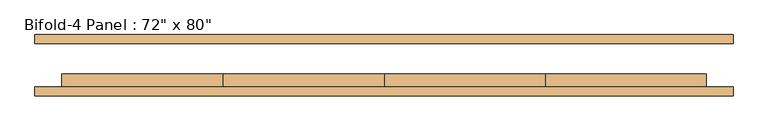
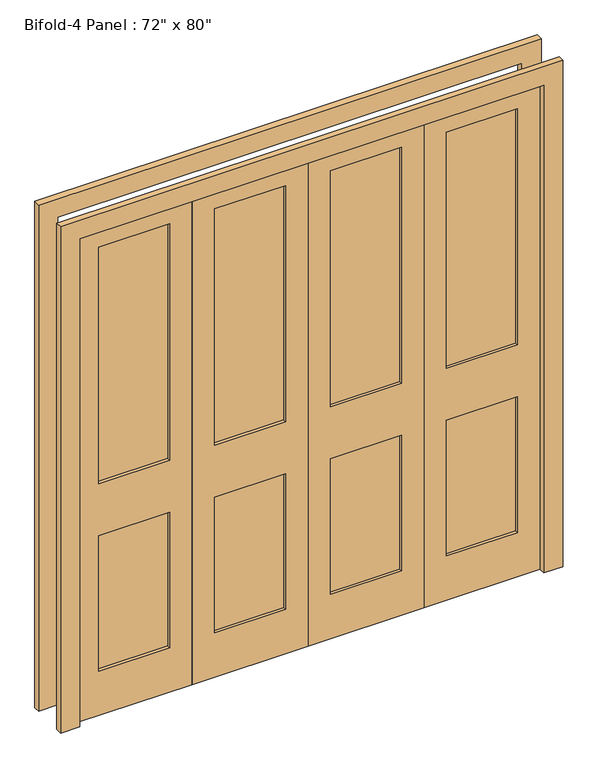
"""IFC4 building model written with IfcOpenShell, lengths in millimetres: door geometry."""

from ifc_helpers import new_model, si_unit, frame, origin, place, context, project, spatial, polyline, outline, extrude, source, transform, mapped, element, save


def door_beec499a(model_context):
    return source(origin(), model_context, "Body", "SweptSolid", [
        extrude(outline(polyline([(546.1, -49.2125), (546.1, -36.5125), (825.5, -36.5125), (825.5, -49.2125), (546.1, -49.2125)])), frame((0.0, 0.0, 965.2), z_axis=(0.0, 0.0, 1.0), x_axis=(1.0, 0.0, 0.0)), (0.0, 0.0, 1.0), 984.25),
        extrude(outline(polyline([(546.1, -49.2125), (546.1, -36.5125), (825.5, -36.5125), (825.5, -49.2125), (546.1, -49.2125)])), frame((0.0, 0.0, 184.15), z_axis=(0.0, 0.0, 1.0), x_axis=(1.0, 0.0, 0.0)), (0.0, 0.0, 1.0), 565.15),
        extrude(outline(polyline([(88.9, -49.2125), (88.9, -36.5125), (368.3, -36.5125), (368.3, -49.2125), (88.9, -49.2125)])), frame((0.0, 0.0, 965.2), z_axis=(0.0, 0.0, 1.0), x_axis=(1.0, 0.0, 0.0)), (0.0, 0.0, 1.0), 984.25),
        extrude(outline(polyline([(88.9, -49.2125), (88.9, -36.5125), (368.3, -36.5125), (368.3, -49.2125), (88.9, -49.2125)])), frame((0.0, 0.0, 184.15), z_axis=(0.0, 0.0, 1.0), x_axis=(1.0, 0.0, 0.0)), (0.0, 0.0, 1.0), 565.15),
        extrude(outline(polyline([(-368.3, -49.2125), (-368.3, -36.5125), (-88.9, -36.5125), (-88.9, -49.2125), (-368.3, -49.2125)])), frame((0.0, 0.0, 184.15), z_axis=(0.0, 0.0, 1.0), x_axis=(1.0, 0.0, 0.0)), (0.0, 0.0, 1.0), 565.15),
        extrude(outline(polyline([(-368.3, -49.2125), (-368.3, -36.5125), (-88.9, -36.5125), (-88.9, -49.2125), (-368.3, -49.2125)])), frame((0.0, 0.0, 965.2), z_axis=(0.0, 0.0, 1.0), x_axis=(1.0, 0.0, 0.0)), (0.0, 0.0, 1.0), 984.25),
        extrude(outline(polyline([(-825.5, -49.2125), (-825.5, -36.5125), (-546.1, -36.5125), (-546.1, -49.2125), (-825.5, -49.2125)])), frame((0.0, 0.0, 965.2), z_axis=(0.0, 0.0, 1.0), x_axis=(1.0, 0.0, 0.0)), (0.0, 0.0, 1.0), 984.25),
        extrude(outline(polyline([(-825.5, -49.2125), (-825.5, -36.5125), (-546.1, -36.5125), (-546.1, -49.2125), (-825.5, -49.2125)])), frame((0.0, 0.0, 184.15), z_axis=(0.0, 0.0, 1.0), x_axis=(1.0, 0.0, 0.0)), (0.0, 0.0, 1.0), 565.15),
        extrude(outline(polyline([(0.0, 990.6), (2108.2, 990.6), (2108.2, -990.6), (0.0, -990.6), (0.0, -914.4), (2032.0, -914.4), (2032.0, 914.4), (0.0, 914.4), (0.0, 990.6)])), frame((0.0, 61.9125, 0.0), z_axis=(0.0, 1.0, 0.0), x_axis=(0.0, 0.0, 1.0)), (0.0, 0.0, 1.0), 25.4),
        extrude(outline(polyline([(0.0, 990.6), (2108.2, 990.6), (2108.2, -990.6), (0.0, -990.6), (0.0, -914.4), (2032.0, -914.4), (2032.0, 914.4), (0.0, 914.4), (0.0, 990.6)])), frame((0.0, -87.3125, 0.0), z_axis=(0.0, 1.0, 0.0), x_axis=(0.0, 0.0, 1.0)), (0.0, 0.0, 1.0), 25.4),
        extrude(outline(polyline([(0.0, -914.4), (0.0, -457.2), (2032.0, -457.2), (2032.0, -914.4), (0.0, -914.4)]), holes=[polyline([(1949.45, -825.5), (1949.45, -546.1), (965.2, -546.1), (965.2, -825.5), (1949.45, -825.5)]), polyline([(749.3, -825.5), (749.3, -546.1), (184.15, -546.1), (184.15, -825.5), (749.3, -825.5)])]), frame((0.0, -61.9125, 0.0), z_axis=(0.0, 1.0, 0.0), x_axis=(0.0, 0.0, 1.0)), (0.0, 0.0, 1.0), 38.1),
        extrude(outline(polyline([(0.0, -457.2), (0.0, 0.0), (2032.0, 0.0), (2032.0, -457.2), (0.0, -457.2)]), holes=[polyline([(1949.45, -368.3), (1949.45, -88.9), (965.2, -88.9), (965.2, -368.3), (1949.45, -368.3)]), polyline([(749.3, -368.3), (749.3, -88.9), (184.15, -88.9), (184.15, -368.3), (749.3, -368.3)])]), frame((0.0, -61.9125, 0.0), z_axis=(0.0, 1.0, 0.0), x_axis=(0.0, 0.0, 1.0)), (0.0, 0.0, 1.0), 38.1),
        extrude(outline(polyline([(0.0, 0.0), (0.0, 457.2), (2032.0, 457.2), (2032.0, 0.0), (0.0, 0.0)]), holes=[polyline([(1949.45, 88.9), (1949.45, 368.3), (965.2, 368.3), (965.2, 88.9), (1949.45, 88.9)]), polyline([(749.3, 88.9), (749.3, 368.3), (184.15, 368.3), (184.15, 88.9), (749.3, 88.9)])]), frame((0.0, -61.9125, 0.0), z_axis=(0.0, 1.0, 0.0), x_axis=(0.0, 0.0, 1.0)), (0.0, 0.0, 1.0), 38.1),
        extrude(outline(polyline([(0.0, 457.2), (0.0, 914.4), (2032.0, 914.4), (2032.0, 457.2), (0.0, 457.2)]), holes=[polyline([(1949.45, 546.1), (1949.45, 825.5), (965.2, 825.5), (965.2, 546.1), (1949.45, 546.1)]), polyline([(749.3, 546.1), (749.3, 825.5), (184.15, 825.5), (184.15, 546.1), (749.3, 546.1)])]), frame((0.0, -61.9125, 0.0), z_axis=(0.0, 1.0, 0.0), x_axis=(0.0, 0.0, 1.0)), (0.0, 0.0, 1.0), 38.1),
    ])


if __name__ == "__main__":
    model = new_model("IFC4")
    model_context = context("Model", 3, world=origin())
    ifc_project = project(units=[si_unit("LENGTHUNIT", "METRE", prefix="MILLI")], contexts=[model_context])
    site = spatial("IfcSite", under=ifc_project)
    building = spatial("IfcBuilding", under=site)
    placement = place(None, origin())
    door_shape = door_beec499a(model_context)
    element("IfcDoor", 1, ObjectType="Bifold-4 Panel : 72\" x 80\"", at=placement, inside=building, context=model_context, shape_type="MappedRepresentation", body=[
        mapped(door_shape, transform((0.0, 0.0, 0.0), x_axis=(1.0, 0.0, 0.0), y_axis=(0.0, 1.0, 0.0), z_axis=(0.0, 0.0, 1.0))),
    ])
    save(model, "model.ifc")
